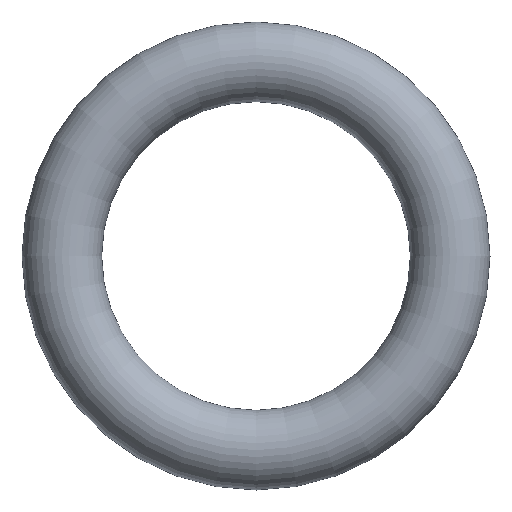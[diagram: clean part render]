
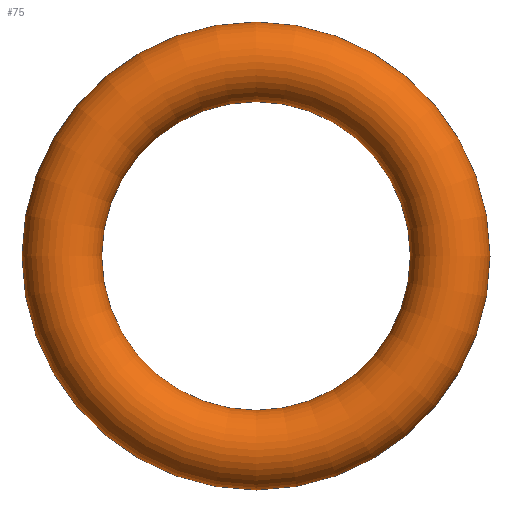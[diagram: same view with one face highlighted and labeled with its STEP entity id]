
A CAD part, front view. The second image highlights one B-rep face of the part: STEP entity #75.
In plain terms, the highlighted toroidal (fillet/blend) face has major radius 5.85 mm and minor radius 1.2 mm.
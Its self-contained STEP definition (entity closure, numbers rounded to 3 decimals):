
#75 = ADVANCED_FACE( '', ( #77 ), #78, .T. );
#77 = FACE_BOUND( '', #79, .T. );
#78 = TOROIDAL_SURFACE( '', #80, 5.85, 1.2 );
#79 = VERTEX_LOOP( '', #81 );
#80 = AXIS2_PLACEMENT_3D( '', #82, #83, #84 );
#81 = VERTEX_POINT( '', #85 );
#82 = CARTESIAN_POINT( '', ( 0., 0., 0. ) );
#83 = DIRECTION( '', ( 0., -1., 0. ) );
#84 = DIRECTION( '', ( 0., 0., -1. ) );
#85 = CARTESIAN_POINT( '', ( 0., 0., -7.05 ) );
